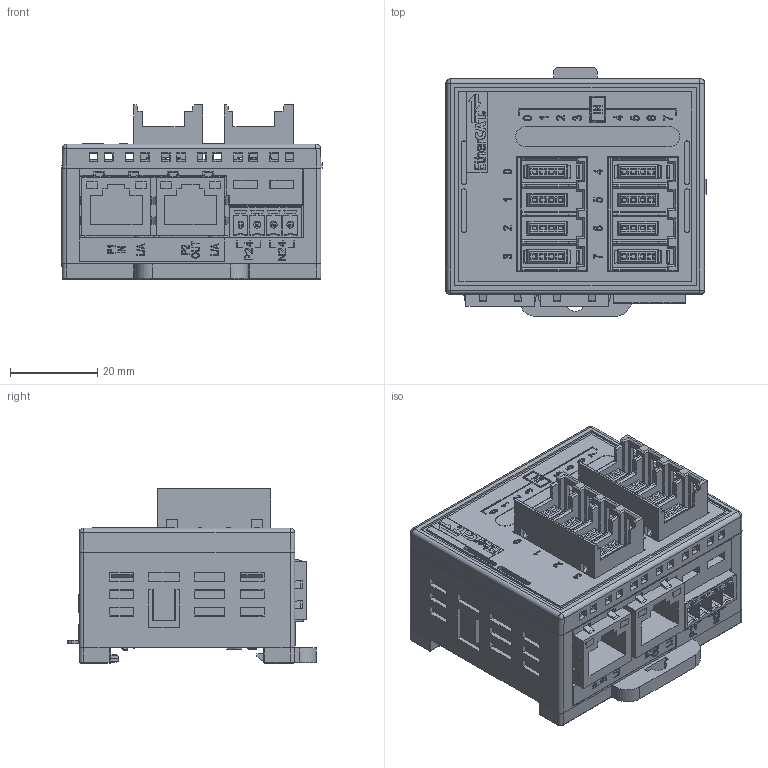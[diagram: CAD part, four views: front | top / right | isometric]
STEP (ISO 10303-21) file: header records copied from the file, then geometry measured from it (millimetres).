
FILE_DESCRIPTION((''),'2;1');
FILE_NAME('ECCEP80','2026-05-11T14:03:43',('gijyu181'),(''),'CREO PARAMETRIC BY PTC INC, 2018050','CREO PARAMETRIC BY PTC INC, 2018050','');
FILE_SCHEMA(('CONFIG_CONTROL_DESIGN','SHAPE_APPEARANCE_LAYERS_GROUPS'));
Products named in the file (1): ECCEP80
Bounding box: 59.75 x 57.15 x 40 mm (x, y, z)
Volume: 70224.1 mm3; surface area: 41250.4 mm2
Topology: 2 solids, 16 shells, 7386 faces, 20942 edges, 13857 vertices
Faces by surface type: plane 5710, cylinder 897, extrusion 665, sphere 44, torus 26, bspline 24, cone 20
Entity records: 299626 total; most frequent: CARTESIAN_POINT 51138, ORIENTED_EDGE 41856, DIRECTION 35158, EDGE_CURVE 20932, VECTOR 17982, LINE 17317, VERTEX_POINT 13857, PRESENTATION_STYLE_ASSIGNMENT 10898
